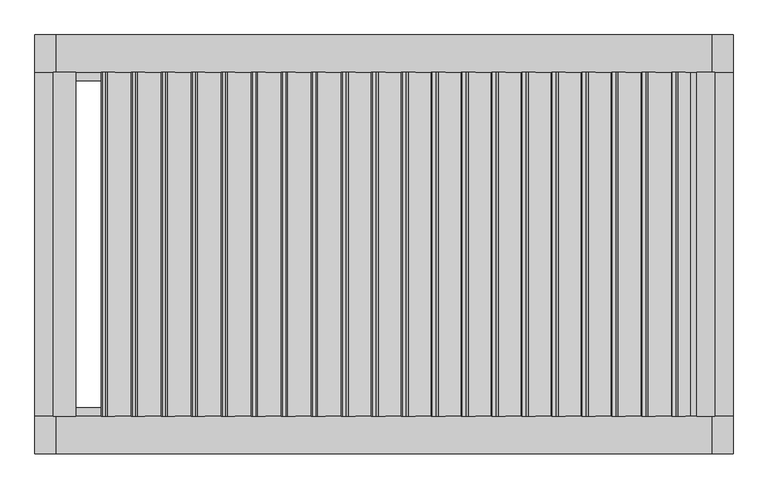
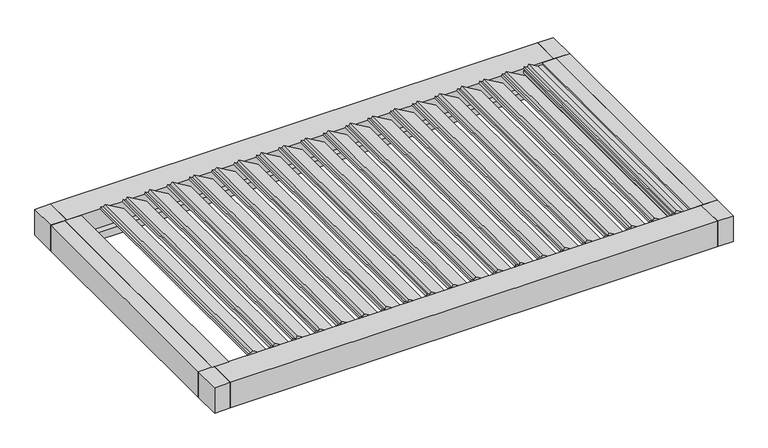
"""IFC4 building model written with IfcOpenShell, lengths in millimetres: proxy geometry, Renson_Aero_Skye_Patio covers : Aero Skye - Single."""

from ifc_helpers import new_model, si_unit, point, frame, frame_2d, origin, place, context, project, spatial, polyline, circle_curve, trimmed, segment, composite_curve, outline, extrude, source, transform, mapped, element, save


def generic_models_ff80af85(model_context):
    return source(origin(), model_context, "Body", "SweptSolid", [
        extrude(outline(composite_curve([segment(polyline([(29.8138685, 1892.3525759), (7.0679459, 1876.4257094), (20.2860771, 1850.7611218), (1.6850489, 1843.9909012), (-48.7378284, 1941.8929672)]), True, "CONTINUOUS"), segment(trimmed(circle_curve(frame_2d((-35.4025712, 1948.7610759)), 15.0), [point((-48.7378284, 1941.8929672))], [point((-45.0443854, 1960.2517426))], False, "CARTESIAN"), True, "CONTINUOUS"), segment(polyline([(-45.0443854, 1960.2517426), (-30.0864383, 1972.8029505), (-73.9543263, 2048.7843613), (-90.2507501, 2042.8529481), (-97.2537412, 2056.4500954), (-74.2339676, 2072.5687144), (29.8138685, 1892.3525759)]), True, "CONTINUOUS")], self_intersect=False)), frame((0.0, -1232.0, 0.0), z_axis=(0.0, 1.0, 0.0), x_axis=(0.0, 0.0, 1.0)), (0.0, 0.0, 1.0), 2464.0),
        extrude(outline(composite_curve([segment(polyline([(29.8138685, 1677.3434771), (7.0679459, 1661.4166107), (20.2860771, 1635.7520231), (1.6850489, 1628.9818025), (-48.7378284, 1726.8838684)]), True, "CONTINUOUS"), segment(trimmed(circle_curve(frame_2d((-35.4025712, 1733.7519772)), 15.0), [point((-48.7378284, 1726.8838684))], [point((-45.0443854, 1745.2426438))], False, "CARTESIAN"), True, "CONTINUOUS"), segment(polyline([(-45.0443854, 1745.2426438), (-30.0864383, 1757.7938517), (-73.9543263, 1833.7752626), (-90.2507501, 1827.8438494), (-97.2537412, 1841.4409966), (-74.2339676, 1857.5596156), (29.8138685, 1677.3434771)]), True, "CONTINUOUS")], self_intersect=False)), frame((0.0, -1232.0, 0.0), z_axis=(0.0, 1.0, 0.0), x_axis=(0.0, 0.0, 1.0)), (0.0, 0.0, 1.0), 2464.0),
        extrude(outline(composite_curve([segment(polyline([(29.8138685, 1462.3343783), (7.0679459, 1446.4075119), (20.2860771, 1420.7429243), (1.6850489, 1413.9727037), (-48.7378284, 1511.8747697)]), True, "CONTINUOUS"), segment(trimmed(circle_curve(frame_2d((-35.4025712, 1518.7428784)), 15.0), [point((-48.7378284, 1511.8747697))], [point((-45.0443854, 1530.233545))], False, "CARTESIAN"), True, "CONTINUOUS"), segment(polyline([(-45.0443854, 1530.233545), (-30.0864383, 1542.784753), (-73.9543263, 1618.7661638), (-90.2507501, 1612.8347506), (-97.2537412, 1626.4318979), (-74.2339676, 1642.5505169), (29.8138685, 1462.3343783)]), True, "CONTINUOUS")], self_intersect=False)), frame((0.0, -1232.0, 0.0), z_axis=(0.0, 1.0, 0.0), x_axis=(0.0, 0.0, 1.0)), (0.0, 0.0, 1.0), 2464.0),
        extrude(outline(composite_curve([segment(polyline([(29.8138685, 1247.3252796), (7.0679459, 1231.3984132), (20.2860771, 1205.7338255), (1.6850489, 1198.9636049), (-48.7378284, 1296.8656709)]), True, "CONTINUOUS"), segment(trimmed(circle_curve(frame_2d((-35.4025712, 1303.7337796)), 15.0), [point((-48.7378284, 1296.8656709))], [point((-45.0443854, 1315.2244463))], False, "CARTESIAN"), True, "CONTINUOUS"), segment(polyline([(-45.0443854, 1315.2244463), (-30.0864383, 1327.7756542), (-73.9543263, 1403.7570651), (-90.2507501, 1397.8256518), (-97.2537412, 1411.4227991), (-74.2339676, 1427.5414181), (29.8138685, 1247.3252796)]), True, "CONTINUOUS")], self_intersect=False)), frame((0.0, -1232.0, 0.0), z_axis=(0.0, 1.0, 0.0), x_axis=(0.0, 0.0, 1.0)), (0.0, 0.0, 1.0), 2464.0),
        extrude(outline(composite_curve([segment(polyline([(29.8138685, 1032.3161808), (7.0679459, 1016.3893144), (20.2860771, 990.7247268), (1.6850489, 983.9545062), (-48.7378284, 1081.8565721)]), True, "CONTINUOUS"), segment(trimmed(circle_curve(frame_2d((-35.4025712, 1088.7246809)), 15.0), [point((-48.7378284, 1081.8565721))], [point((-45.0443854, 1100.2153475))], False, "CARTESIAN"), True, "CONTINUOUS"), segment(polyline([(-45.0443854, 1100.2153475), (-30.0864383, 1112.7665554), (-73.9543263, 1188.7479663), (-90.2507501, 1182.8165531), (-97.2537412, 1196.4137004), (-74.2339676, 1212.5323193), (29.8138685, 1032.3161808)]), True, "CONTINUOUS")], self_intersect=False)), frame((0.0, -1232.0, 0.0), z_axis=(0.0, 1.0, 0.0), x_axis=(0.0, 0.0, 1.0)), (0.0, 0.0, 1.0), 2464.0),
        extrude(outline(composite_curve([segment(polyline([(29.8138685, 817.3070821), (7.0679459, 801.3802156), (20.2860771, 775.715628), (1.6850489, 768.9454074), (-48.7378284, 866.8474734)]), True, "CONTINUOUS"), segment(trimmed(circle_curve(frame_2d((-35.4025712, 873.7155821)), 15.0), [point((-48.7378284, 866.8474734))], [point((-45.0443854, 885.2062488))], False, "CARTESIAN"), True, "CONTINUOUS"), segment(polyline([(-45.0443854, 885.2062488), (-30.0864383, 897.7574567), (-73.9543263, 973.7388675), (-90.2507501, 967.8074543), (-97.2537412, 981.4046016), (-74.2339676, 997.5232206), (29.8138685, 817.3070821)]), True, "CONTINUOUS")], self_intersect=False)), frame((0.0, -1232.0, 0.0), z_axis=(0.0, 1.0, 0.0), x_axis=(0.0, 0.0, 1.0)), (0.0, 0.0, 1.0), 2464.0),
        extrude(outline(composite_curve([segment(polyline([(29.8138685, 602.2979833), (7.0679459, 586.3711169), (20.2860771, 560.7065292), (1.6850489, 553.9363087), (-48.7378284, 651.8383746)]), True, "CONTINUOUS"), segment(trimmed(circle_curve(frame_2d((-35.4025712, 658.7064833)), 15.0), [point((-48.7378284, 651.8383746))], [point((-45.0443854, 670.19715))], False, "CARTESIAN"), True, "CONTINUOUS"), segment(polyline([(-45.0443854, 670.19715), (-30.0864383, 682.7483579), (-73.9543263, 758.7297688), (-90.2507501, 752.7983556), (-97.2537412, 766.3955028), (-74.2339676, 782.5141218), (29.8138685, 602.2979833)]), True, "CONTINUOUS")], self_intersect=False)), frame((0.0, -1232.0, 0.0), z_axis=(0.0, 1.0, 0.0), x_axis=(0.0, 0.0, 1.0)), (0.0, 0.0, 1.0), 2464.0),
        extrude(outline(composite_curve([segment(polyline([(29.8138685, 387.2888845), (7.0679459, 371.3620181), (20.2860771, 345.6974305), (1.6850489, 338.9272099), (-48.7378284, 436.8292758)]), True, "CONTINUOUS"), segment(trimmed(circle_curve(frame_2d((-35.4025712, 443.6973846)), 15.0), [point((-48.7378284, 436.8292758))], [point((-45.0443854, 455.1880512))], False, "CARTESIAN"), True, "CONTINUOUS"), segment(polyline([(-45.0443854, 455.1880512), (-30.0864383, 467.7392591), (-73.9543263, 543.72067), (-90.2507501, 537.7892568), (-97.2537412, 551.3864041), (-74.2339676, 567.505023), (29.8138685, 387.2888845)]), True, "CONTINUOUS")], self_intersect=False)), frame((0.0, -1232.0, 0.0), z_axis=(0.0, 1.0, 0.0), x_axis=(0.0, 0.0, 1.0)), (0.0, 0.0, 1.0), 2464.0),
        extrude(outline(composite_curve([segment(polyline([(29.8138685, 172.2797858), (7.0679459, 156.3529193), (20.2860771, 130.6883317), (1.6850489, 123.9181111), (-48.7378284, 221.8201771)]), True, "CONTINUOUS"), segment(trimmed(circle_curve(frame_2d((-35.4025712, 228.6882858)), 15.0), [point((-48.7378284, 221.8201771))], [point((-45.0443854, 240.1789525))], False, "CARTESIAN"), True, "CONTINUOUS"), segment(polyline([(-45.0443854, 240.1789525), (-30.0864383, 252.7301604), (-73.9543263, 328.7115712), (-90.2507501, 322.780158), (-97.2537412, 336.3773053), (-74.2339676, 352.4959243), (29.8138685, 172.2797858)]), True, "CONTINUOUS")], self_intersect=False)), frame((0.0, -1232.0, 0.0), z_axis=(0.0, 1.0, 0.0), x_axis=(0.0, 0.0, 1.0)), (0.0, 0.0, 1.0), 2464.0),
        extrude(outline(composite_curve([segment(polyline([(29.8138685, -42.729313), (7.0679459, -58.6561794), (20.2860771, -84.320767), (1.6850489, -91.0909876), (-48.7378284, 6.8110783)]), True, "CONTINUOUS"), segment(trimmed(circle_curve(frame_2d((-35.4025712, 13.679187)), 15.0), [point((-48.7378284, 6.8110783))], [point((-45.0443854, 25.1698537))], False, "CARTESIAN"), True, "CONTINUOUS"), segment(polyline([(-45.0443854, 25.1698537), (-30.0864383, 37.7210616), (-73.9543263, 113.7024725), (-90.2507501, 107.7710593), (-97.2537412, 121.3682065), (-74.2339676, 137.4868255), (29.8138685, -42.729313)]), True, "CONTINUOUS")], self_intersect=False)), frame((0.0, -1232.0, 0.0), z_axis=(0.0, 1.0, 0.0), x_axis=(0.0, 0.0, 1.0)), (0.0, 0.0, 1.0), 2464.0),
        extrude(outline(composite_curve([segment(polyline([(29.8138685, -257.7384118), (7.0679459, -273.6652782), (20.2860771, -299.3298658), (1.6850489, -306.1000864), (-48.7378284, -208.1980204)]), True, "CONTINUOUS"), segment(trimmed(circle_curve(frame_2d((-35.4025712, -201.3299117)), 15.0), [point((-48.7378284, -208.1980204))], [point((-45.0443854, -189.8392451))], False, "CARTESIAN"), True, "CONTINUOUS"), segment(polyline([(-45.0443854, -189.8392451), (-30.0864383, -177.2880371), (-73.9543263, -101.3066263), (-90.2507501, -107.2380395), (-97.2537412, -93.6408922), (-74.2339676, -77.5222733), (29.8138685, -257.7384118)]), True, "CONTINUOUS")], self_intersect=False)), frame((0.0, -1232.0, 0.0), z_axis=(0.0, 1.0, 0.0), x_axis=(0.0, 0.0, 1.0)), (0.0, 0.0, 1.0), 2464.0),
        extrude(outline(composite_curve([segment(polyline([(29.8138685, -472.7475105), (7.0679459, -488.674377), (20.2860771, -514.3389646), (1.6850489, -521.1091852), (-48.7378284, -423.2071192)]), True, "CONTINUOUS"), segment(trimmed(circle_curve(frame_2d((-35.4025712, -416.3390105)), 15.0), [point((-48.7378284, -423.2071192))], [point((-45.0443854, -404.8483438))], False, "CARTESIAN"), True, "CONTINUOUS"), segment(polyline([(-45.0443854, -404.8483438), (-30.0864383, -392.2971359), (-73.9543263, -316.3157251), (-90.2507501, -322.2471383), (-97.2537412, -308.649991), (-74.2339676, -292.531372), (29.8138685, -472.7475105)]), True, "CONTINUOUS")], self_intersect=False)), frame((0.0, -1232.0, 0.0), z_axis=(0.0, 1.0, 0.0), x_axis=(0.0, 0.0, 1.0)), (0.0, 0.0, 1.0), 2464.0),
        extrude(outline(composite_curve([segment(polyline([(29.8138685, -687.7566093), (7.0679459, -703.6834757), (20.2860771, -729.3480633), (1.6850489, -736.1182839), (-48.7378284, -638.216218)]), True, "CONTINUOUS"), segment(trimmed(circle_curve(frame_2d((-35.4025712, -631.3481092)), 15.0), [point((-48.7378284, -638.216218))], [point((-45.0443854, -619.8574426))], False, "CARTESIAN"), True, "CONTINUOUS"), segment(polyline([(-45.0443854, -619.8574426), (-30.0864383, -607.3062347), (-73.9543263, -531.3248238), (-90.2507501, -537.256237), (-97.2537412, -523.6590897), (-74.2339676, -507.5404708), (29.8138685, -687.7566093)]), True, "CONTINUOUS")], self_intersect=False)), frame((0.0, -1232.0, 0.0), z_axis=(0.0, 1.0, 0.0), x_axis=(0.0, 0.0, 1.0)), (0.0, 0.0, 1.0), 2464.0),
        extrude(outline(composite_curve([segment(polyline([(29.8138685, -902.7657081), (7.0679459, -918.6925745), (20.2860771, -944.3571621), (1.6850489, -951.1273827), (-48.7378284, -853.2253167)]), True, "CONTINUOUS"), segment(trimmed(circle_curve(frame_2d((-35.4025712, -846.357208)), 15.0), [point((-48.7378284, -853.2253167))], [point((-45.0443854, -834.8665414))], False, "CARTESIAN"), True, "CONTINUOUS"), segment(polyline([(-45.0443854, -834.8665414), (-30.0864383, -822.3153334), (-73.9543263, -746.3339226), (-90.2507501, -752.2653358), (-97.2537412, -738.6681885), (-74.2339676, -722.5495695), (29.8138685, -902.7657081)]), True, "CONTINUOUS")], self_intersect=False)), frame((0.0, -1232.0, 0.0), z_axis=(0.0, 1.0, 0.0), x_axis=(0.0, 0.0, 1.0)), (0.0, 0.0, 1.0), 2464.0),
        extrude(outline(composite_curve([segment(polyline([(29.8138685, -1117.7748068), (7.0679459, -1133.7016732), (20.2860771, -1159.3662609), (1.6850489, -1166.1364815), (-48.7378284, -1068.2344155)]), True, "CONTINUOUS"), segment(trimmed(circle_curve(frame_2d((-35.4025712, -1061.3663068)), 15.0), [point((-48.7378284, -1068.2344155))], [point((-45.0443854, -1049.8756401))], False, "CARTESIAN"), True, "CONTINUOUS"), segment(polyline([(-45.0443854, -1049.8756401), (-30.0864383, -1037.3244322), (-73.9543263, -961.3430213), (-90.2507501, -967.2744346), (-97.2537412, -953.6772873), (-74.2339676, -937.5586683), (29.8138685, -1117.7748068)]), True, "CONTINUOUS")], self_intersect=False)), frame((0.0, -1232.0, 0.0), z_axis=(0.0, 1.0, 0.0), x_axis=(0.0, 0.0, 1.0)), (0.0, 0.0, 1.0), 2464.0),
        extrude(outline(composite_curve([segment(polyline([(29.8138685, -1332.7839056), (7.0679459, -1348.710772), (20.2860771, -1374.3753596), (1.6850489, -1381.1455802), (-48.7378284, -1283.2435143)]), True, "CONTINUOUS"), segment(trimmed(circle_curve(frame_2d((-35.4025712, -1276.3754055)), 15.0), [point((-48.7378284, -1283.2435143))], [point((-45.0443854, -1264.8847389))], False, "CARTESIAN"), True, "CONTINUOUS"), segment(polyline([(-45.0443854, -1264.8847389), (-30.0864383, -1252.333531), (-73.9543263, -1176.3521201), (-90.2507501, -1182.2835333), (-97.2537412, -1168.686386), (-74.2339676, -1152.5677671), (29.8138685, -1332.7839056)]), True, "CONTINUOUS")], self_intersect=False)), frame((0.0, -1232.0, 0.0), z_axis=(0.0, 1.0, 0.0), x_axis=(0.0, 0.0, 1.0)), (0.0, 0.0, 1.0), 2464.0),
        extrude(outline(composite_curve([segment(polyline([(29.8138685, -1547.7930043), (7.0679459, -1563.7198708), (20.2860771, -1589.3844584), (1.6850489, -1596.154679), (-48.7378284, -1498.252613)]), True, "CONTINUOUS"), segment(trimmed(circle_curve(frame_2d((-35.4025712, -1491.3845043)), 15.0), [point((-48.7378284, -1498.252613))], [point((-45.0443854, -1479.8938376))], False, "CARTESIAN"), True, "CONTINUOUS"), segment(polyline([(-45.0443854, -1479.8938376), (-30.0864383, -1467.3426297), (-73.9543263, -1391.3612189), (-90.2507501, -1397.2926321), (-97.2537412, -1383.6954848), (-74.2339676, -1367.5768658), (29.8138685, -1547.7930043)]), True, "CONTINUOUS")], self_intersect=False)), frame((0.0, -1232.0, 0.0), z_axis=(0.0, 1.0, 0.0), x_axis=(0.0, 0.0, 1.0)), (0.0, 0.0, 1.0), 2464.0),
        extrude(outline(composite_curve([segment(polyline([(29.8138685, -1762.8021031), (7.0679459, -1778.7289695), (20.2860771, -1804.3935572), (1.6850489, -1811.1637777), (-48.7378284, -1713.2617118)]), True, "CONTINUOUS"), segment(trimmed(circle_curve(frame_2d((-35.4025712, -1706.3936031)), 15.0), [point((-48.7378284, -1713.2617118))], [point((-45.0443854, -1694.9029364))], False, "CARTESIAN"), True, "CONTINUOUS"), segment(polyline([(-45.0443854, -1694.9029364), (-30.0864383, -1682.3517285), (-73.9543263, -1606.3703176), (-90.2507501, -1612.3017308), (-97.2537412, -1598.7045836), (-74.2339676, -1582.5859646), (29.8138685, -1762.8021031)]), True, "CONTINUOUS")], self_intersect=False)), frame((0.0, -1232.0, 0.0), z_axis=(0.0, 1.0, 0.0), x_axis=(0.0, 0.0, 1.0)), (0.0, 0.0, 1.0), 2464.0),
        extrude(outline(composite_curve([segment(polyline([(29.8138685, 2107.3616746), (7.0679459, 2091.4348082), (20.2860771, 2065.7702206), (1.6850489, 2059.0), (-48.7378284, 2156.902066)]), True, "CONTINUOUS"), segment(trimmed(circle_curve(frame_2d((-35.4025712, 2163.7701747)), 15.0), [point((-48.7378284, 2156.902066))], [point((-45.0443854, 2175.2608413))], False, "CARTESIAN"), True, "CONTINUOUS"), segment(polyline([(-45.0443854, 2175.2608413), (-30.0864383, 2187.8120492), (-73.9543263, 2263.7934601), (-90.2507501, 2257.8620469), (-97.2537412, 2271.4591942), (-74.2339676, 2287.5778131), (29.8138685, 2107.3616746)]), True, "CONTINUOUS")], self_intersect=False)), frame((0.0, -1232.0, 0.0), z_axis=(0.0, 1.0, 0.0), x_axis=(0.0, 0.0, 1.0)), (0.0, 0.0, 1.0), 2464.0),
        extrude(outline(composite_curve([segment(polyline([(29.8138685, -1977.8112019), (7.0679459, -1993.7380683), (20.2860771, -2019.4026559), (1.6850489, -2026.1728765), (-48.7378284, -1928.2708105)]), True, "CONTINUOUS"), segment(trimmed(circle_curve(frame_2d((-35.4025712, -1921.4027018)), 15.0), [point((-48.7378284, -1928.2708105))], [point((-45.0443854, -1909.9120352))], False, "CARTESIAN"), True, "CONTINUOUS"), segment(polyline([(-45.0443854, -1909.9120352), (-30.0864383, -1897.3608273), (-73.9543263, -1821.3794164), (-90.2507501, -1827.3108296), (-97.2537412, -1813.7136823), (-74.2339676, -1797.5950634), (29.8138685, -1977.8112019)]), True, "CONTINUOUS")], self_intersect=False)), frame((0.0, -1232.0, 0.0), z_axis=(0.0, 1.0, 0.0), x_axis=(0.0, 0.0, 1.0)), (0.0, 0.0, 1.0), 2464.0),
        extrude(outline(polyline([(-63.35, 2369.0), (0.0, 2369.0), (0.0, 2239.5), (-20.0, 2239.5), (-20.0, 2059.0), (-44.0, 2059.0), (-44.0, 2209.0), (-63.35, 2209.0), (-63.35, 2369.0)])), frame((0.0, -1232.0, 0.0), z_axis=(0.0, 1.0, 0.0), x_axis=(0.0, 0.0, 1.0)), (0.0, 0.0, 1.0), 2464.0),
        extrude(outline(polyline([(0.0, -2209.0), (0.0, -2369.0), (-44.0, -2369.0), (-44.0, -2236.3193336), (-10.8283397, -2233.4171894), (-9.655498, -2209.0), (0.0, -2209.0)])), frame((0.0, -1232.0, 0.0), z_axis=(0.0, 1.0, 0.0), x_axis=(0.0, 0.0, 1.0)), (0.0, 0.0, 1.0), 2464.0),
        extrude(outline(polyline([(2500.0, -1500.0), (2350.0, -1500.0), (2350.0, -1232.0), (2500.0, -1232.0), (2500.0, -1500.0)])), frame((0.0, 0.0, -260.0), z_axis=(0.0, 0.0, 1.0), x_axis=(1.0, 0.0, 0.0)), (0.0, 0.0, 1.0), 260.0),
        extrude(outline(polyline([(-2500.0, -1500.0), (-2500.0, -1232.0), (-2350.0, -1232.0), (-2350.0, -1500.0), (-2500.0, -1500.0)])), frame((0.0, 0.0, -260.0), z_axis=(0.0, 0.0, 1.0), x_axis=(1.0, 0.0, 0.0)), (0.0, 0.0, 1.0), 260.0),
        extrude(outline(polyline([(-2350.0, 1232.0), (-2500.0, 1232.0), (-2500.0, 1500.0), (-2350.0, 1500.0), (-2350.0, 1232.0)])), frame((0.0, 0.0, -260.0), z_axis=(0.0, 0.0, 1.0), x_axis=(1.0, 0.0, 0.0)), (0.0, 0.0, 1.0), 260.0),
        extrude(outline(polyline([(2500.0, 1500.0), (2500.0, 1232.0), (2350.0, 1232.0), (2350.0, 1500.0), (2500.0, 1500.0)])), frame((0.0, 0.0, -260.0), z_axis=(0.0, 0.0, 1.0), x_axis=(1.0, 0.0, 0.0)), (0.0, 0.0, 1.0), 260.0),
        extrude(outline(polyline([(-1232.0, -188.0), (-1170.0, -188.0), (-1170.0, -260.0), (-1500.0, -260.0), (-1500.0, 0.0), (-1232.0, 0.0), (-1232.0, -188.0)])), frame((-2350.0, 0.0, 0.0), z_axis=(1.0, 0.0, 0.0), x_axis=(0.0, 1.0, 0.0)), (0.0, 0.0, 1.0), 4700.0),
        extrude(outline(polyline([(1232.0, -188.0), (1232.0, 0.0), (1500.0, 0.0), (1500.0, -260.0), (1170.0, -260.0), (1170.0, -188.0), (1232.0, -188.0)])), frame((-2350.0, 0.0, 0.0), z_axis=(1.0, 0.0, 0.0), x_axis=(0.0, 1.0, 0.0)), (0.0, 0.0, 1.0), 4700.0),
        extrude(outline(polyline([(-64.0, 2369.0), (-64.0, 2350.0), (-260.0, 2350.0), (-260.0, 2500.0), (0.0, 2500.0), (0.0, 2369.0), (-64.0, 2369.0)])), frame((0.0, -1232.0, 0.0), z_axis=(0.0, 1.0, 0.0), x_axis=(0.0, 0.0, 1.0)), (0.0, 0.0, 1.0), 2464.0),
        extrude(outline(polyline([(-64.0, -2369.0), (0.0, -2369.0), (0.0, -2500.0), (-260.0, -2500.0), (-260.0, -2350.0), (-64.0, -2350.0), (-64.0, -2369.0)])), frame((0.0, -1232.0, 0.0), z_axis=(0.0, 1.0, 0.0), x_axis=(0.0, 0.0, 1.0)), (0.0, 0.0, 1.0), 2464.0),
    ])


if __name__ == "__main__":
    model = new_model("IFC4")
    model_context = context("Model", 3, world=origin())
    ifc_project = project(units=[si_unit("LENGTHUNIT", "METRE", prefix="MILLI")], contexts=[model_context])
    site = spatial("IfcSite", under=ifc_project)
    building = spatial("IfcBuilding", under=site)
    placement = place(None, origin())
    generic_models_shape = generic_models_ff80af85(model_context)
    element("IfcBuildingElementProxy", 1, Name="Renson_Aero_Skye_Patio covers : Aero Skye - Single", ObjectType="Renson_Aero_Skye_Patio covers : Aero Skye - Single", at=placement, inside=building, context=model_context, shape_type="MappedRepresentation", body=[
        mapped(generic_models_shape, transform((0.0, 0.0, 0.0), x_axis=(1.0, 0.0, 0.0), y_axis=(0.0, 1.0, 0.0), z_axis=(0.0, 0.0, 1.0))),
    ])
    save(model, "model.ifc")
